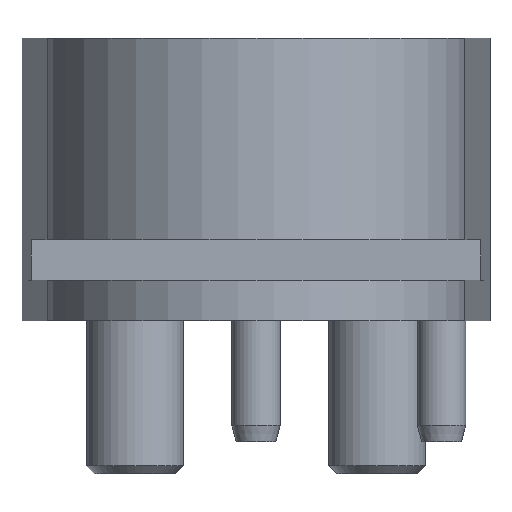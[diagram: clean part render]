
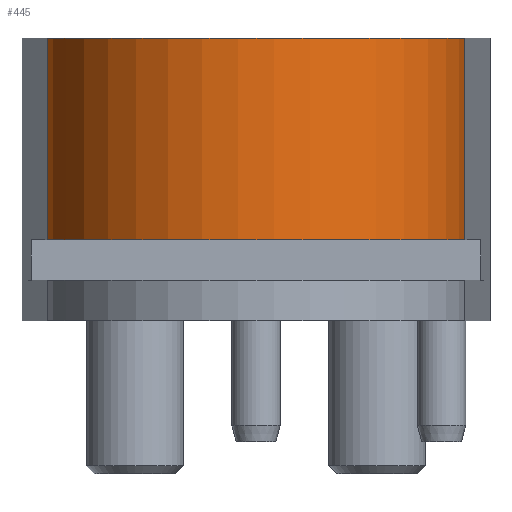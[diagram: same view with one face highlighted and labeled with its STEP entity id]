
A CAD part, left-side view. The second image highlights one B-rep face of the part: STEP entity #445.
In plain terms, the highlighted cylindrical face has radius 26 mm (diameter 52 mm), a partial arc.
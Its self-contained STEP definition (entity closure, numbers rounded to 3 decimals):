
#130=CYLINDRICAL_SURFACE('',#2700,26.);
#289=CIRCLE('',#2698,26.);
#290=CIRCLE('',#2699,26.);
#445=ADVANCED_FACE('',(#663),#130,.T.);
#663=FACE_OUTER_BOUND('',#807,.T.);
#807=EDGE_LOOP('',(#1133,#1134,#1135,#1136));
#1133=ORIENTED_EDGE('',*,*,#1974,.F.);
#1134=ORIENTED_EDGE('',*,*,#1975,.T.);
#1135=ORIENTED_EDGE('',*,*,#1976,.F.);
#1136=ORIENTED_EDGE('',*,*,#1977,.F.);
#1713=VERTEX_POINT('',#3939);
#1714=VERTEX_POINT('',#3940);
#1715=VERTEX_POINT('',#3942);
#1716=VERTEX_POINT('',#3944);
#1974=EDGE_CURVE('',#1713,#1714,#289,.T.);
#1975=EDGE_CURVE('',#1713,#1715,#2288,.T.);
#1976=EDGE_CURVE('',#1716,#1715,#290,.T.);
#1977=EDGE_CURVE('',#1714,#1716,#2289,.T.);
#2288=LINE('',#3941,#2486);
#2289=LINE('',#3945,#2487);
#2486=VECTOR('',#3152,1.);
#2487=VECTOR('',#3155,1.);
#2698=AXIS2_PLACEMENT_3D('',#3938,#3150,#3151);
#2699=AXIS2_PLACEMENT_3D('',#3943,#3153,#3154);
#2700=AXIS2_PLACEMENT_3D('',#3946,#3156,#3157);
#3150=DIRECTION('',(0.,0.,-1.));
#3151=DIRECTION('',(0.,1.,0.));
#3152=DIRECTION('',(0.,0.,1.));
#3153=DIRECTION('',(0.,0.,1.));
#3154=DIRECTION('',(0.,1.,0.));
#3155=DIRECTION('',(0.,0.,1.));
#3156=DIRECTION('',(0.,0.,1.));
#3157=DIRECTION('',(-1.,0.,0.));
#3938=CARTESIAN_POINT('',(0.,0.,10.));
#3939=CARTESIAN_POINT('',(-2.342,-25.894,10.));
#3940=CARTESIAN_POINT('',(-2.342,25.894,10.));
#3941=CARTESIAN_POINT('',(-2.342,-25.894,5.));
#3942=CARTESIAN_POINT('',(-2.342,-25.894,35.));
#3943=CARTESIAN_POINT('',(0.,0.,35.));
#3944=CARTESIAN_POINT('',(-2.342,25.894,35.));
#3945=CARTESIAN_POINT('',(-2.342,25.894,5.));
#3946=CARTESIAN_POINT('',(0.,0.,0.));
